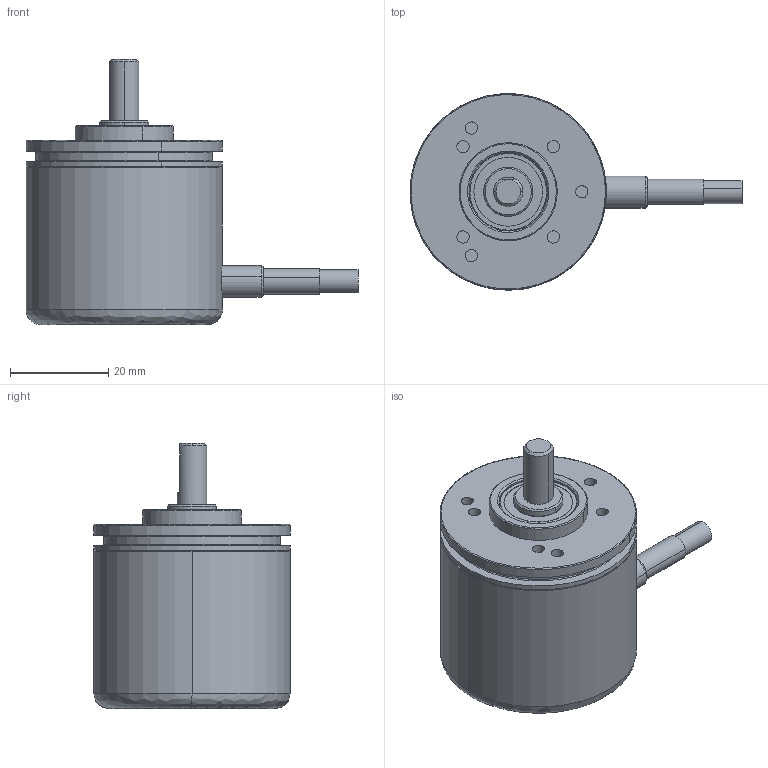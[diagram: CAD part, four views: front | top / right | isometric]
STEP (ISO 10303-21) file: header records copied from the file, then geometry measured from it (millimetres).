
FILE_DESCRIPTION (( 'STEP AP214' ), '1' );
FILE_NAME ('8_KIS40_1342_1000.STEP', '2016-01-27T12:09:29', ( 'HeirlerN' ), ( 'Microsoft' ), 'SwSTEP 2.0', 'SolidWorks 2013', '' );
FILE_SCHEMA (( 'AUTOMOTIVE_DESIGN' ));
Length unit declared in the file: millimetre
Products named in the file (1): 8_KIS40_1342_1000
Bounding box: 67.62 x 40 x 54 mm (x, y, z)
Surface area: 9429 mm2 (no closed solid volume)
Topology: 0 solids, 6 shells, 79 faces, 191 edges, 125 vertices
Faces by surface type: cylinder 40, plane 16, bspline 12, cone 11
Entity records: 3749 total; most frequent: CARTESIAN_POINT 994, DIRECTION 428, ORIENTED_EDGE 348, EDGE_CURVE 191, AXIS2_PLACEMENT_3D 187, VERTEX_POINT 125, CIRCLE 119, EDGE_LOOP 97
